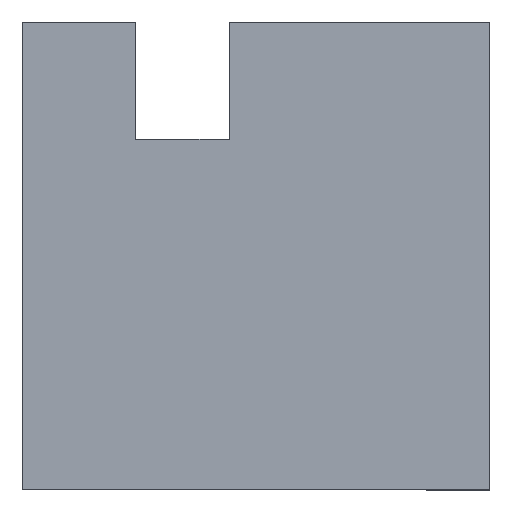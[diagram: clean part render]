
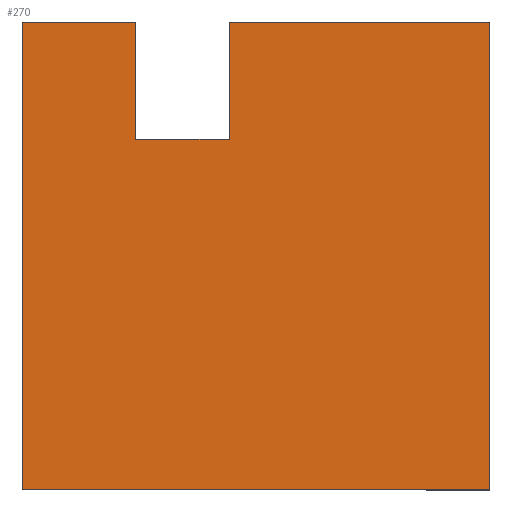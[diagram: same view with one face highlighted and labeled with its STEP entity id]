
A CAD part, top view. The second image highlights one B-rep face of the part: STEP entity #270.
In plain terms, the highlighted planar face has unit normal (0, 0, 1).
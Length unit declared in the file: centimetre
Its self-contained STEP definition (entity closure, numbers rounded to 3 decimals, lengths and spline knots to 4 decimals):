
#1 = CARTESIAN_POINT ( 'NONE',  ( 1000., 0., 1000. ) ) ;
#3 = VECTOR ( 'NONE', #627, 100. ) ;
#18 = EDGE_CURVE ( 'NONE', #312, #581, #267, .T. ) ;
#22 = FACE_OUTER_BOUND ( 'NONE', #601, .T. ) ;
#27 = VECTOR ( 'NONE', #549, 100. ) ;
#42 = CARTESIAN_POINT ( 'NONE',  ( 0., 1000., 1000. ) ) ;
#52 = LINE ( 'NONE', #362, #357 ) ;
#96 = ORIENTED_EDGE ( 'NONE', *, *, #626, .T. ) ;
#99 = ORIENTED_EDGE ( 'NONE', *, *, #497, .T. ) ;
#103 = VERTEX_POINT ( 'NONE', #1 ) ;
#113 = DIRECTION ( 'NONE',  ( 0., 1., 0. ) ) ;
#126 = LINE ( 'NONE', #188, #480 ) ;
#136 = VECTOR ( 'NONE', #608, 100. ) ;
#159 = ORIENTED_EDGE ( 'NONE', *, *, #698, .T. ) ;
#179 = VECTOR ( 'NONE', #361, 100. ) ;
#180 = VERTEX_POINT ( 'NONE', #279 ) ;
#185 = CARTESIAN_POINT ( 'NONE',  ( 242.483, 748.6389, 1000. ) ) ;
#186 = LINE ( 'NONE', #673, #136 ) ;
#188 = CARTESIAN_POINT ( 'NONE',  ( 0., 1000., 1000. ) ) ;
#224 = VERTEX_POINT ( 'NONE', #633 ) ;
#239 = CARTESIAN_POINT ( 'NONE',  ( 1000., 1000., 1000. ) ) ;
#241 = AXIS2_PLACEMENT_3D ( 'NONE', #459, #394, #278 ) ;
#267 = LINE ( 'NONE', #317, #3 ) ;
#270 = ADVANCED_FACE ( 'NONE', ( #22 ), #702, .T. ) ;
#278 = DIRECTION ( 'NONE',  ( 1., 0., 0. ) ) ;
#279 = CARTESIAN_POINT ( 'NONE',  ( 442.5204, 1000., 1000. ) ) ;
#298 = LINE ( 'NONE', #42, #179 ) ;
#312 = VERTEX_POINT ( 'NONE', #769 ) ;
#317 = CARTESIAN_POINT ( 'NONE',  ( 242.483, 748.6389, 1000. ) ) ;
#348 = ORIENTED_EDGE ( 'NONE', *, *, #667, .T. ) ;
#354 = LINE ( 'NONE', #663, #678 ) ;
#357 = VECTOR ( 'NONE', #786, 100. ) ;
#359 = ORIENTED_EDGE ( 'NONE', *, *, #404, .T. ) ;
#361 = DIRECTION ( 'NONE',  ( -1., 0., 0. ) ) ;
#362 = CARTESIAN_POINT ( 'NONE',  ( 0., 1000., 1000. ) ) ;
#366 = CARTESIAN_POINT ( 'NONE',  ( 0., 0., 1000. ) ) ;
#381 = LINE ( 'NONE', #185, #557 ) ;
#394 = DIRECTION ( 'NONE',  ( 0., 0., 1. ) ) ;
#404 = EDGE_CURVE ( 'NONE', #224, #690, #52, .T. ) ;
#425 = VERTEX_POINT ( 'NONE', #366 ) ;
#437 = LINE ( 'NONE', #492, #27 ) ;
#459 = CARTESIAN_POINT ( 'NONE',  ( 0., 0., 1000. ) ) ;
#480 = VECTOR ( 'NONE', #787, 100. ) ;
#492 = CARTESIAN_POINT ( 'NONE',  ( 0., 0., 1000. ) ) ;
#496 = DIRECTION ( 'NONE',  ( 0., 1., 0. ) ) ;
#497 = EDGE_CURVE ( 'NONE', #180, #312, #186, .T. ) ;
#507 = EDGE_CURVE ( 'NONE', #714, #180, #298, .T. ) ;
#549 = DIRECTION ( 'NONE',  ( 1., 0., 0. ) ) ;
#557 = VECTOR ( 'NONE', #496, 100. ) ;
#581 = VERTEX_POINT ( 'NONE', #722 ) ;
#592 = ORIENTED_EDGE ( 'NONE', *, *, #687, .T. ) ;
#601 = EDGE_LOOP ( 'NONE', ( #592, #359, #159, #348, #96, #654, #99, #665 ) ) ;
#608 = DIRECTION ( 'NONE',  ( 0., -1., 0. ) ) ;
#626 = EDGE_CURVE ( 'NONE', #103, #714, #354, .T. ) ;
#627 = DIRECTION ( 'NONE',  ( -1., 0., 0. ) ) ;
#633 = CARTESIAN_POINT ( 'NONE',  ( 242.483, 1000., 1000. ) ) ;
#654 = ORIENTED_EDGE ( 'NONE', *, *, #507, .T. ) ;
#663 = CARTESIAN_POINT ( 'NONE',  ( 1000., 1000., 1000. ) ) ;
#665 = ORIENTED_EDGE ( 'NONE', *, *, #18, .T. ) ;
#667 = EDGE_CURVE ( 'NONE', #425, #103, #437, .T. ) ;
#672 = CARTESIAN_POINT ( 'NONE',  ( 0., 1000., 1000. ) ) ;
#673 = CARTESIAN_POINT ( 'NONE',  ( 442.5204, 748.6389, 1000. ) ) ;
#678 = VECTOR ( 'NONE', #113, 100. ) ;
#687 = EDGE_CURVE ( 'NONE', #581, #224, #381, .T. ) ;
#690 = VERTEX_POINT ( 'NONE', #672 ) ;
#698 = EDGE_CURVE ( 'NONE', #690, #425, #126, .T. ) ;
#702 = PLANE ( 'NONE',  #241 ) ;
#714 = VERTEX_POINT ( 'NONE', #239 ) ;
#722 = CARTESIAN_POINT ( 'NONE',  ( 242.483, 748.6389, 1000. ) ) ;
#769 = CARTESIAN_POINT ( 'NONE',  ( 442.5204, 748.6389, 1000. ) ) ;
#786 = DIRECTION ( 'NONE',  ( -1., 0., 0. ) ) ;
#787 = DIRECTION ( 'NONE',  ( 0., -1., 0. ) ) ;
